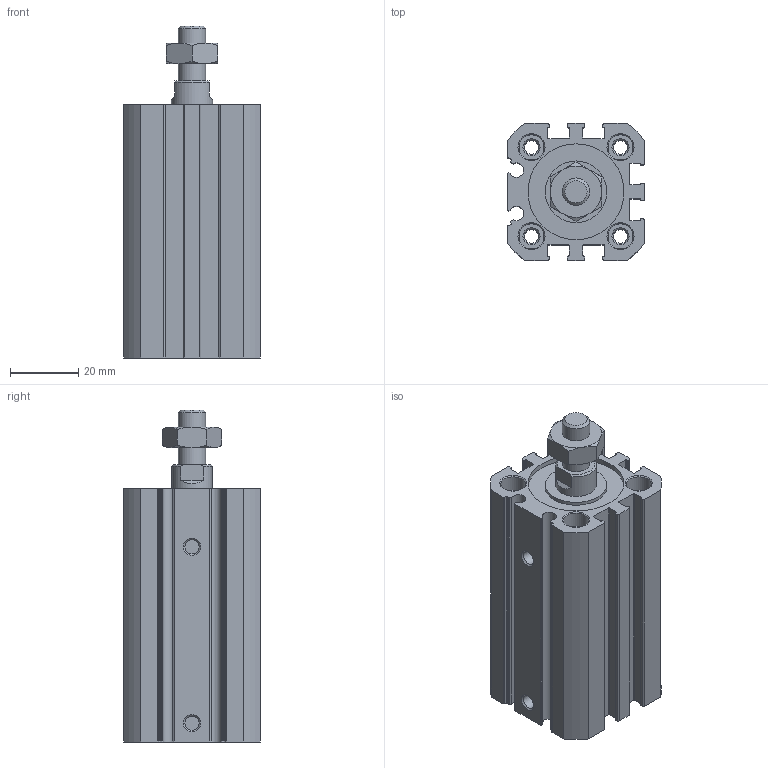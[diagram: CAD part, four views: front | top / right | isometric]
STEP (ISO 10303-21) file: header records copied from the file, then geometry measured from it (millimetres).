
FILE_DESCRIPTION( ( 'STEP AP214' ), '1' );
FILE_NAME( 'C:/Users/EMC02301/Desktop/RU0638 SF外牙 图纸/SF25X35-S-M.stp', '2026-07-24T09:24:27', ( 'License CC BY-ND 4.0' ), ( 'CADENAS' ), ' ', 'PARTsolutions', ' ' );
FILE_SCHEMA( ( 'AUTOMOTIVE_DESIGN { 1 0 10303 214 1 1 1 1 }' ) );
Length unit declared in the file: millimetre
Products named in the file (3): SF25X35-S-M()(01); _SF25X35()(_body) ; _SF25X35-M(rod-0)
Assembly tree (2 placements, depth 2):
  SF25X35-S-M()(01)
    _SF25X35()(_body) 
    _SF25X35-M(rod-0)
Bounding box: 40 x 40 x 97 mm (x, y, z)
Volume: 82661.1 mm3; surface area: 33894.5 mm2
Topology: 2 solids, 2 shells, 215 faces, 546 edges, 354 vertices
Faces by surface type: plane 95, cylinder 85, cone 35
Full cylindrical faces by diameter (mm): 4.134 x6, 7.3 x8, 8 x2, 12 x2, 18 x1, 25 x3, 28 x1
Entity records: 8134 total; most frequent: CARTESIAN_POINT 1214, DIRECTION 1114, ORIENTED_EDGE 996, EDGE_CURVE 498, AXIS2_PLACEMENT_3D 426, VERTEX_POINT 350, EDGE_LOOP 286, LINE 262
